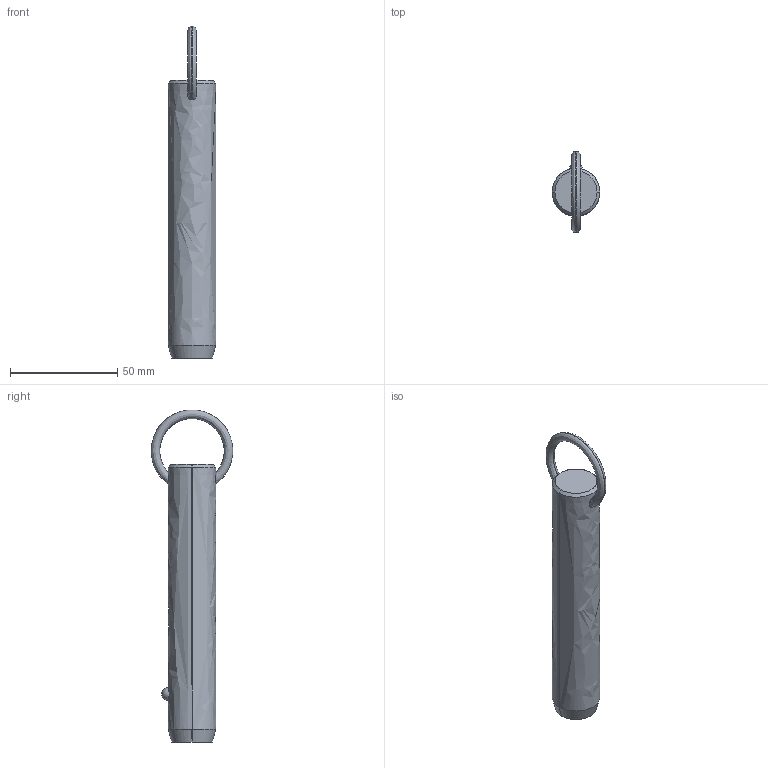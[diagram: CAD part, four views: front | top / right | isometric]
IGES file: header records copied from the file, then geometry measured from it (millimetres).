
Start section: SolidWorks IGES file using analytic representation for surfaces
Global section: file name: C:\Users\liam_\OneDrive\Documents\WORK\Work for WixRoyd\Job Files\J-00019 - Matt Davis CAD Checking\04. CAD Drawings\automotion20190605\P1250.2_v2\P1250.2_v2_20190729_IGES\P1250.087-360.igs; native system: SolidWorks 2017; preprocessor: SolidWorks 2017; author: liam_; date: 190730.001014; units: millimetre
Bounding box: 22.2 x 38.09 x 154.88 mm (x, y, z)
Surface area: 10675.5 mm2 (no closed solid volume)
Topology: 0 solids, 0 shells, 12 faces, 302 edges, 300 vertices
Faces by surface type: revolution 8, bspline 4
